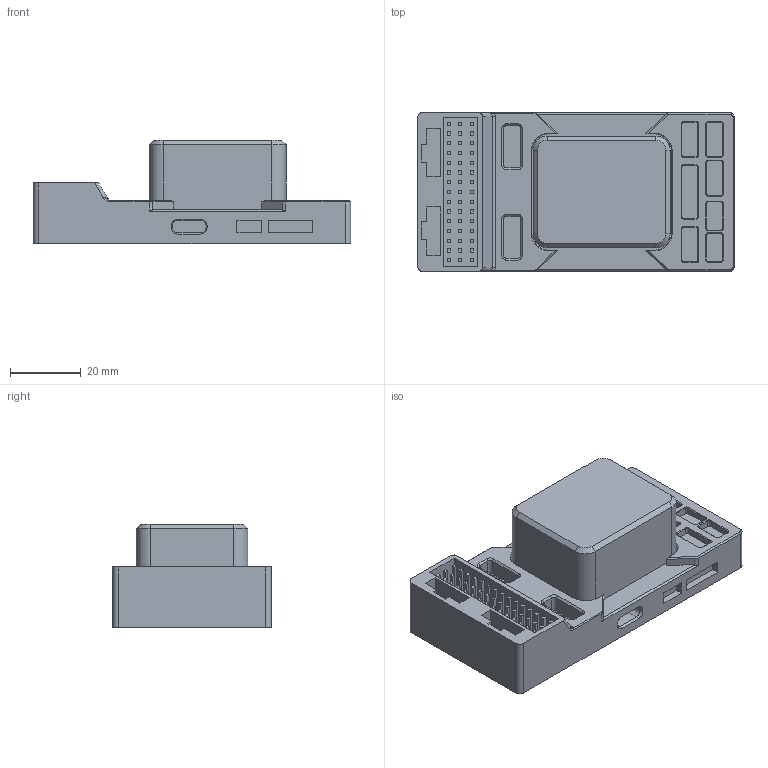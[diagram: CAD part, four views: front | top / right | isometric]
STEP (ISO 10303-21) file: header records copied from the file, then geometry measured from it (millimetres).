
FILE_DESCRIPTION(/* description */ (''),/* implementation_level */ '2;1');
FILE_NAME(/* name */ 'Pixhawk v6x.step',/* time_stamp */ '2026-01-14T21:33:22-05:00',/* author */ (''),/* organization */ (''),/* preprocessor_version */ 'ST-DEVELOPER v20.1',/* originating_system */ 'Autodesk Translation Framework v14.21.0.0',/* authorisation */ '');
FILE_SCHEMA (('AUTOMOTIVE_DESIGN { 1 0 10303 214 3 1 1 }'));
Length unit declared in the file: millimetre
Products named in the file (1): Pixhawk v6x
Bounding box: 90 x 45 x 29.35 mm (x, y, z)
Volume: 67004.4 mm3; surface area: 18762.8 mm2
Topology: 1 solids, 1 shells, 551 faces, 1330 edges, 848 vertices
Faces by surface type: plane 434, cylinder 57, cone 52, bspline 8
Entity records: 15982 total; most frequent: CARTESIAN_POINT 2956, ORIENTED_EDGE 2656, DIRECTION 2570, EDGE_CURVE 1328, LINE 1146, VECTOR 1146, VERTEX_POINT 848, AXIS2_PLACEMENT_3D 712
